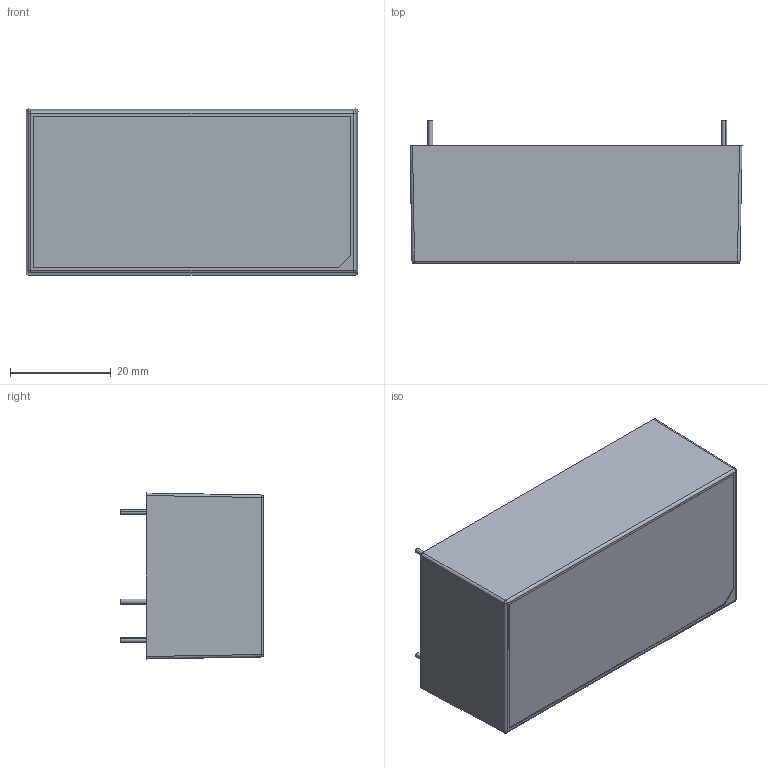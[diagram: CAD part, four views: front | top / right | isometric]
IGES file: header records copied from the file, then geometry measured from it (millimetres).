
Start section: SolidWorks IGES file using analytic representation for surfaces
Bounding box: 66.04 x 28.5 x 33.02 mm (x, y, z)
Surface area: 29839.7 mm2 (no closed solid volume)
Topology: 0 solids, 0 shells, 831 faces, 7229 edges, 7199 vertices
Faces by surface type: bspline 574, revolution 257
